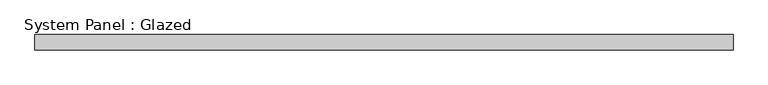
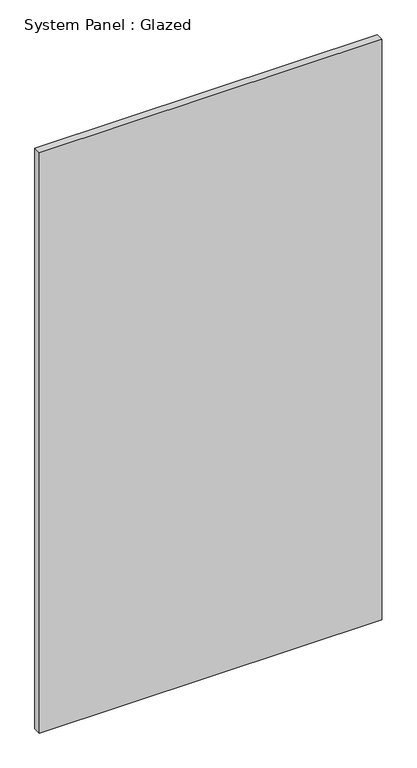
"""IFC4 building model written with IfcOpenShell, lengths in millimetres: plate geometry, System Panel : Glazed."""

from ifc_helpers import new_model, si_unit, origin, origin_with_axes, place, context, project, spatial, polyline, outline, extrude, source, transform, mapped, element, save


def system_panel_glazed_53e6f9fb(model_context):
    return source(origin(), model_context, "Body", "SweptSolid", [
        extrude(outline(polyline([(577.8500002, 19.05), (-577.8500002, 19.05), (-577.8500002, 44.45), (577.8500002, 44.45), (577.8500002, 19.05)])), origin_with_axes(), (0.0, 0.0, 1.0), 2070.1),
    ])


if __name__ == "__main__":
    model = new_model("IFC4")
    model_context = context("Model", 3, world=origin())
    ifc_project = project(units=[si_unit("LENGTHUNIT", "METRE", prefix="MILLI")], contexts=[model_context])
    site = spatial("IfcSite", under=ifc_project)
    building = spatial("IfcBuilding", under=site)
    placement = place(None, origin())
    system_panel_glazed_shape = system_panel_glazed_53e6f9fb(model_context)
    element("IfcPlate", 1, ObjectType="System Panel : Glazed", at=placement, inside=building, context=model_context, shape_type="MappedRepresentation", body=[
        mapped(system_panel_glazed_shape, transform((0.0, 0.0, 0.0), x_axis=(1.0, 0.0, 0.0), y_axis=(0.0, 1.0, 0.0), z_axis=(0.0, 0.0, 1.0))),
    ])
    save(model, "model.ifc")
